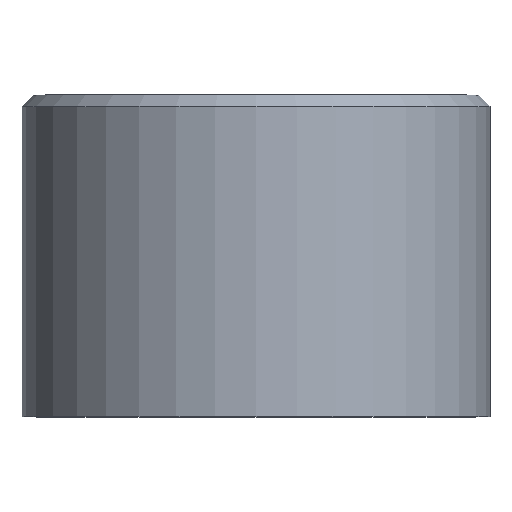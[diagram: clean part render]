
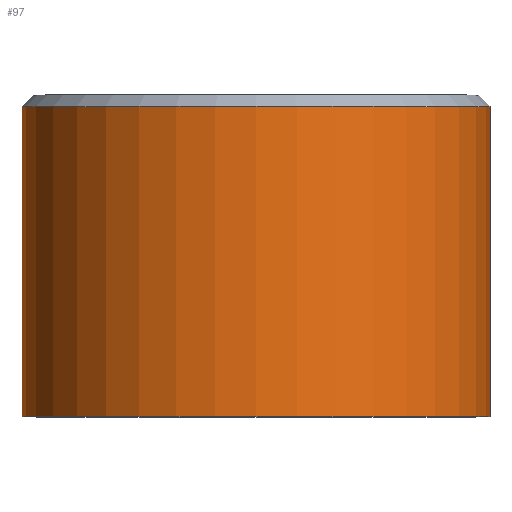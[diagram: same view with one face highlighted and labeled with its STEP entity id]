
A CAD part, top view. The second image highlights one B-rep face of the part: STEP entity #97.
In plain terms, the highlighted cylindrical face has radius 16 mm (diameter 32 mm), a full revolution.
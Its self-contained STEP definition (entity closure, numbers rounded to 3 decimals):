
#15=CYLINDRICAL_SURFACE('',#110,16.);
#23=FACE_BOUND('',#42,.T.);
#31=FACE_OUTER_BOUND('',#41,.T.);
#41=EDGE_LOOP('',(#81));
#42=EDGE_LOOP('',(#82));
#53=CIRCLE('',#106,16.);
#56=CIRCLE('',#111,16.);
#61=VERTEX_POINT('',#157);
#64=VERTEX_POINT('',#165);
#69=EDGE_CURVE('',#61,#61,#53,.T.);
#72=EDGE_CURVE('',#64,#64,#56,.T.);
#81=ORIENTED_EDGE('',*,*,#72,.T.);
#82=ORIENTED_EDGE('',*,*,#69,.F.);
#97=ADVANCED_FACE('',(#31,#23),#15,.T.);
#106=AXIS2_PLACEMENT_3D('',#158,#125,#126);
#110=AXIS2_PLACEMENT_3D('',#164,#133,#134);
#111=AXIS2_PLACEMENT_3D('',#166,#135,#136);
#125=DIRECTION('center_axis',(0.,1.,0.));
#126=DIRECTION('ref_axis',(1.,0.,0.));
#133=DIRECTION('center_axis',(0.,1.,0.));
#134=DIRECTION('ref_axis',(-1.,0.,0.));
#135=DIRECTION('center_axis',(0.,1.,0.));
#136=DIRECTION('ref_axis',(1.,0.,0.));
#157=CARTESIAN_POINT('',(-16.,21.2,0.));
#158=CARTESIAN_POINT('Origin',(0.,21.2,0.));
#164=CARTESIAN_POINT('Origin',(0.,11.,0.));
#165=CARTESIAN_POINT('',(-16.,0.,0.));
#166=CARTESIAN_POINT('Origin',(0.,0.,0.));
